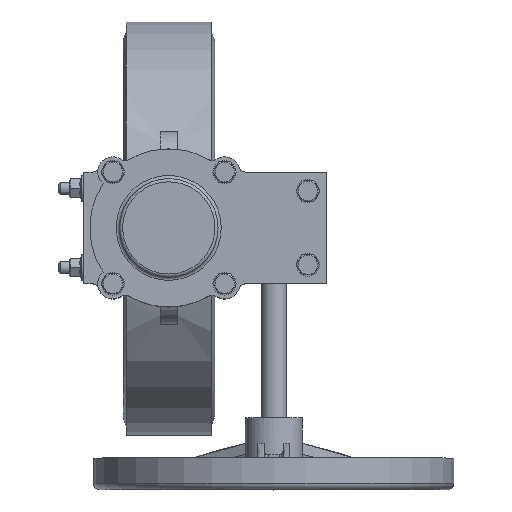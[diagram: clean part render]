
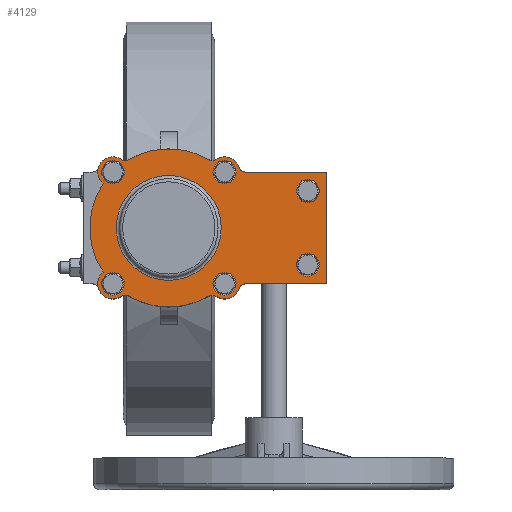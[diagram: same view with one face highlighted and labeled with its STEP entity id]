
A CAD part, top view. The second image highlights one B-rep face of the part: STEP entity #4129.
In plain terms, the highlighted planar face has unit normal (0, 0, 1).
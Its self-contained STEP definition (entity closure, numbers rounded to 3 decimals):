
#4129=ADVANCED_FACE('',(#8373,#8375,#8377,#8379,#8381,#8383,#8385,#8387),#8389,.T.);
#8373=FACE_BOUND('',#8374,.T.);
#8374=EDGE_LOOP('',(#15353,#15354,#15355,#15356,#15357,#15358,#15359,#15360,#15361,
#15362,#15363,#15364,#15365,#15366,#15367,#15368));
#8375=FACE_BOUND('',#8376,.T.);
#8376=EDGE_LOOP('',(#15369));
#8377=FACE_BOUND('',#8378,.T.);
#8378=EDGE_LOOP('',(#15370));
#8379=FACE_BOUND('',#8380,.T.);
#8380=EDGE_LOOP('',(#15371));
#8381=FACE_BOUND('',#8382,.T.);
#8382=EDGE_LOOP('',(#15372));
#8383=FACE_BOUND('',#8384,.T.);
#8384=EDGE_LOOP('',(#15373));
#8385=FACE_BOUND('',#8386,.T.);
#8386=EDGE_LOOP('',(#15374));
#8387=FACE_BOUND('',#8388,.T.);
#8388=EDGE_LOOP('',(#15375));
#8389=PLANE('',#8390);
#8390=AXIS2_PLACEMENT_3D('',#8391,#8392,#8393);
#8391=CARTESIAN_POINT('',(0.,0.,5.));
#8392=DIRECTION('',(0.,0.,1.));
#8393=DIRECTION('',(0.,1.,0.));
#15353=ORIENTED_EDGE('',*,*,#17290,.T.);
#15354=ORIENTED_EDGE('',*,*,#17291,.T.);
#15355=ORIENTED_EDGE('',*,*,#17292,.T.);
#15356=ORIENTED_EDGE('',*,*,#17293,.T.);
#15357=ORIENTED_EDGE('',*,*,#17294,.T.);
#15358=ORIENTED_EDGE('',*,*,#17295,.T.);
#15359=ORIENTED_EDGE('',*,*,#17296,.T.);
#15360=ORIENTED_EDGE('',*,*,#17297,.T.);
#15361=ORIENTED_EDGE('',*,*,#17298,.T.);
#15362=ORIENTED_EDGE('',*,*,#17299,.T.);
#15363=ORIENTED_EDGE('',*,*,#17300,.T.);
#15364=ORIENTED_EDGE('',*,*,#17301,.T.);
#15365=ORIENTED_EDGE('',*,*,#17302,.T.);
#15366=ORIENTED_EDGE('',*,*,#17303,.T.);
#15367=ORIENTED_EDGE('',*,*,#17304,.T.);
#15368=ORIENTED_EDGE('',*,*,#17305,.T.);
#15369=ORIENTED_EDGE('',*,*,#17306,.T.);
#15370=ORIENTED_EDGE('',*,*,#17307,.T.);
#15371=ORIENTED_EDGE('',*,*,#17308,.T.);
#15372=ORIENTED_EDGE('',*,*,#17309,.T.);
#15373=ORIENTED_EDGE('',*,*,#17310,.T.);
#15374=ORIENTED_EDGE('',*,*,#17311,.T.);
#15375=ORIENTED_EDGE('',*,*,#17312,.F.);
#17290=EDGE_CURVE('',#19713,#19714,#19715,.T.);
#17291=EDGE_CURVE('',#19714,#19716,#19717,.T.);
#17292=EDGE_CURVE('',#19716,#19718,#19719,.T.);
#17293=EDGE_CURVE('',#19718,#19720,#19721,.T.);
#17294=EDGE_CURVE('',#19720,#19722,#19723,.T.);
#17295=EDGE_CURVE('',#19722,#19724,#19725,.T.);
#17296=EDGE_CURVE('',#19724,#19726,#19727,.T.);
#17297=EDGE_CURVE('',#19726,#19728,#19729,.T.);
#17298=EDGE_CURVE('',#19728,#19730,#19731,.T.);
#17299=EDGE_CURVE('',#19730,#19732,#19733,.T.);
#17300=EDGE_CURVE('',#19732,#19734,#19735,.T.);
#17301=EDGE_CURVE('',#19734,#19736,#19737,.T.);
#17302=EDGE_CURVE('',#19736,#19738,#19739,.T.);
#17303=EDGE_CURVE('',#19738,#19740,#19741,.T.);
#17304=EDGE_CURVE('',#19740,#19742,#19743,.T.);
#17305=EDGE_CURVE('',#19742,#19713,#19744,.T.);
#17306=EDGE_CURVE('',#19745,#19745,#19746,.F.);
#17307=EDGE_CURVE('',#19747,#19747,#19748,.F.);
#17308=EDGE_CURVE('',#19749,#19749,#19750,.F.);
#17309=EDGE_CURVE('',#19751,#19751,#19752,.F.);
#17310=EDGE_CURVE('',#19753,#19753,#19754,.F.);
#17311=EDGE_CURVE('',#19755,#19755,#19756,.F.);
#17312=EDGE_CURVE('',#19757,#19757,#19758,.T.);
#19713=VERTEX_POINT('',#27442);
#19714=VERTEX_POINT('',#27443);
#19715=CIRCLE('',#27444,5.);
#19716=VERTEX_POINT('',#27448);
#19717=CIRCLE('',#27449,12.);
#19718=VERTEX_POINT('',#27453);
#19719=CIRCLE('',#27454,5.);
#19720=VERTEX_POINT('',#27458);
#19721=LINE('',#27459,#27460);
#19722=VERTEX_POINT('',#27462);
#19723=LINE('',#27463,#27464);
#19724=VERTEX_POINT('',#27466);
#19725=LINE('',#27467,#27468);
#19726=VERTEX_POINT('',#27470);
#19727=CIRCLE('',#27471,5.);
#19728=VERTEX_POINT('',#27475);
#19729=CIRCLE('',#27476,12.);
#19730=VERTEX_POINT('',#27480);
#19731=CIRCLE('',#27481,5.);
#19732=VERTEX_POINT('',#27485);
#19733=CIRCLE('',#27486,62.5);
#19734=VERTEX_POINT('',#27490);
#19735=CIRCLE('',#27491,5.);
#19736=VERTEX_POINT('',#27495);
#19737=CIRCLE('',#27496,12.);
#19738=VERTEX_POINT('',#27500);
#19739=CIRCLE('',#27501,62.5);
#19740=VERTEX_POINT('',#27505);
#19741=CIRCLE('',#27506,12.);
#19742=VERTEX_POINT('',#27510);
#19743=CIRCLE('',#27511,5.);
#19744=CIRCLE('',#27515,62.5);
#19745=VERTEX_POINT('',#27519);
#19746=CIRCLE('',#27520,5.);
#19747=VERTEX_POINT('',#27524);
#19748=CIRCLE('',#27525,5.);
#19749=VERTEX_POINT('',#27529);
#19750=CIRCLE('',#27530,5.);
#19751=VERTEX_POINT('',#27534);
#19752=CIRCLE('',#27535,5.);
#19753=VERTEX_POINT('',#27539);
#19754=CIRCLE('',#27540,5.);
#19755=VERTEX_POINT('',#27544);
#19756=CIRCLE('',#27545,5.);
#19757=VERTEX_POINT('',#27549);
#19758=CIRCLE('',#27550,41.5);
#27442=CARTESIAN_POINT('',(53.78,31.843,5.));
#27443=CARTESIAN_POINT('',(53.998,37.274,5.));
#27444=AXIS2_PLACEMENT_3D('',#27445,#27446,#27447);
#27445=CARTESIAN_POINT('',(58.082,34.39,5.));
#27446=DIRECTION('',(0.,0.,-1.));
#27447=DIRECTION('',(-0.86,-0.509,0.));
#27448=CARTESIAN_POINT('',(47.724,55.663,5.));
#27449=AXIS2_PLACEMENT_3D('',#27450,#27451,#27452);
#27450=CARTESIAN_POINT('',(44.194,44.194,5.));
#27451=DIRECTION('',(0.,0.,1.));
#27452=DIRECTION('',(0.817,-0.577,0.));
#27453=CARTESIAN_POINT('',(44.194,60.442,5.));
#27454=AXIS2_PLACEMENT_3D('',#27455,#27456,#27457);
#27455=CARTESIAN_POINT('',(49.194,60.442,5.));
#27456=DIRECTION('',(0.,0.,-1.));
#27457=DIRECTION('',(-0.294,-0.956,0.));
#27458=CARTESIAN_POINT('',(44.194,125.,5.));
#27459=CARTESIAN_POINT('',(44.194,60.442,5.));
#27460=VECTOR('',#27461,1.);
#27461=DIRECTION('',(0.,1.,0.));
#27462=CARTESIAN_POINT('',(-44.194,125.,5.));
#27463=CARTESIAN_POINT('',(44.194,125.,5.));
#27464=VECTOR('',#27465,1.);
#27465=DIRECTION('',(-1.,0.,0.));
#27466=CARTESIAN_POINT('',(-44.194,60.442,5.));
#27467=CARTESIAN_POINT('',(-44.194,125.,5.));
#27468=VECTOR('',#27469,1.);
#27469=DIRECTION('',(0.,-1.,0.));
#27470=CARTESIAN_POINT('',(-47.724,55.663,5.));
#27471=AXIS2_PLACEMENT_3D('',#27472,#27473,#27474);
#27472=CARTESIAN_POINT('',(-49.194,60.442,5.));
#27473=DIRECTION('',(0.,0.,-1.));
#27474=DIRECTION('',(1.,0.,0.));
#27475=CARTESIAN_POINT('',(-53.998,37.274,5.));
#27476=AXIS2_PLACEMENT_3D('',#27477,#27478,#27479);
#27477=CARTESIAN_POINT('',(-44.194,44.194,5.));
#27478=DIRECTION('',(0.,0.,1.));
#27479=DIRECTION('',(-0.294,0.956,0.));
#27480=CARTESIAN_POINT('',(-53.78,31.843,5.));
#27481=AXIS2_PLACEMENT_3D('',#27482,#27483,#27484);
#27482=CARTESIAN_POINT('',(-58.082,34.39,5.));
#27483=DIRECTION('',(0.,0.,-1.));
#27484=DIRECTION('',(0.817,0.577,0.));
#27485=CARTESIAN_POINT('',(-53.78,-31.843,5.));
#27486=AXIS2_PLACEMENT_3D('',#27487,#27488,#27489);
#27487=CARTESIAN_POINT('',(0.,0.,5.));
#27488=DIRECTION('',(0.,0.,1.));
#27489=DIRECTION('',(-0.86,0.509,0.));
#27490=CARTESIAN_POINT('',(-53.998,-37.274,5.));
#27491=AXIS2_PLACEMENT_3D('',#27492,#27493,#27494);
#27492=CARTESIAN_POINT('',(-58.082,-34.39,5.));
#27493=DIRECTION('',(0.,0.,-1.));
#27494=DIRECTION('',(0.86,0.509,0.));
#27495=CARTESIAN_POINT('',(-34.933,-51.826,5.));
#27496=AXIS2_PLACEMENT_3D('',#27497,#27498,#27499);
#27497=CARTESIAN_POINT('',(-44.194,-44.194,5.));
#27498=DIRECTION('',(0.,0.,1.));
#27499=DIRECTION('',(-0.817,0.577,0.));
#27500=CARTESIAN_POINT('',(34.933,-51.826,5.));
#27501=AXIS2_PLACEMENT_3D('',#27502,#27503,#27504);
#27502=CARTESIAN_POINT('',(0.,0.,5.));
#27503=DIRECTION('',(0.,0.,1.));
#27504=DIRECTION('',(-0.559,-0.829,0.));
#27505=CARTESIAN_POINT('',(53.998,-37.274,5.));
#27506=AXIS2_PLACEMENT_3D('',#27507,#27508,#27509);
#27507=CARTESIAN_POINT('',(44.194,-44.194,5.));
#27508=DIRECTION('',(0.,0.,1.));
#27509=DIRECTION('',(-0.772,-0.636,0.));
#27510=CARTESIAN_POINT('',(53.78,-31.843,5.));
#27511=AXIS2_PLACEMENT_3D('',#27512,#27513,#27514);
#27512=CARTESIAN_POINT('',(58.082,-34.39,5.));
#27513=DIRECTION('',(0.,0.,-1.));
#27514=DIRECTION('',(-0.817,-0.577,0.));
#27515=AXIS2_PLACEMENT_3D('',#27516,#27517,#27518);
#27516=CARTESIAN_POINT('',(0.,0.,5.));
#27517=DIRECTION('',(0.,0.,1.));
#27518=DIRECTION('',(0.86,-0.509,0.));
#27519=CARTESIAN_POINT('',(29.194,115.,5.));
#27520=AXIS2_PLACEMENT_3D('',#27521,#27522,#27523);
#27521=CARTESIAN_POINT('',(29.194,110.,5.));
#27522=DIRECTION('',(0.,0.,1.));
#27523=DIRECTION('',(0.,1.,0.));
#27524=CARTESIAN_POINT('',(-29.194,115.,5.));
#27525=AXIS2_PLACEMENT_3D('',#27526,#27527,#27528);
#27526=CARTESIAN_POINT('',(-29.194,110.,5.));
#27527=DIRECTION('',(0.,0.,1.));
#27528=DIRECTION('',(0.,1.,0.));
#27529=CARTESIAN_POINT('',(44.194,49.194,5.));
#27530=AXIS2_PLACEMENT_3D('',#27531,#27532,#27533);
#27531=CARTESIAN_POINT('',(44.194,44.194,5.));
#27532=DIRECTION('',(0.,0.,1.));
#27533=DIRECTION('',(0.,1.,0.));
#27534=CARTESIAN_POINT('',(49.194,-44.194,5.));
#27535=AXIS2_PLACEMENT_3D('',#27536,#27537,#27538);
#27536=CARTESIAN_POINT('',(44.194,-44.194,5.));
#27537=DIRECTION('',(0.,0.,1.));
#27538=DIRECTION('',(1.,0.,0.));
#27539=CARTESIAN_POINT('',(-44.194,-49.194,5.));
#27540=AXIS2_PLACEMENT_3D('',#27541,#27542,#27543);
#27541=CARTESIAN_POINT('',(-44.194,-44.194,5.));
#27542=DIRECTION('',(0.,0.,1.));
#27543=DIRECTION('',(0.,-1.,0.));
#27544=CARTESIAN_POINT('',(-49.194,44.194,5.));
#27545=AXIS2_PLACEMENT_3D('',#27546,#27547,#27548);
#27546=CARTESIAN_POINT('',(-44.194,44.194,5.));
#27547=DIRECTION('',(0.,0.,1.));
#27548=DIRECTION('',(-1.,0.,0.));
#27549=CARTESIAN_POINT('',(-41.5,0.,5.));
#27550=AXIS2_PLACEMENT_3D('',#27551,#27552,#27553);
#27551=CARTESIAN_POINT('',(0.,0.,5.));
#27552=DIRECTION('',(0.,0.,1.));
#27553=DIRECTION('',(-1.,0.,0.));
